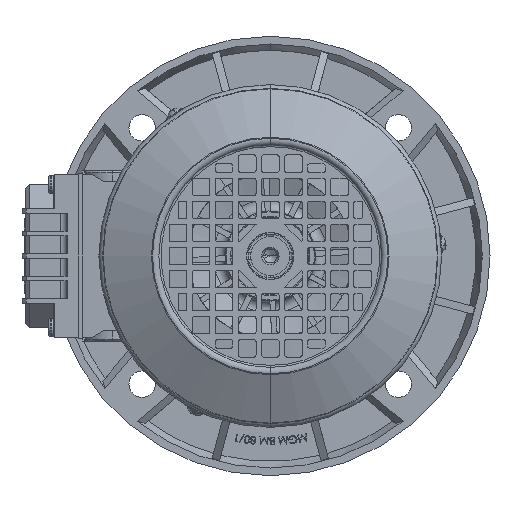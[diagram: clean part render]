
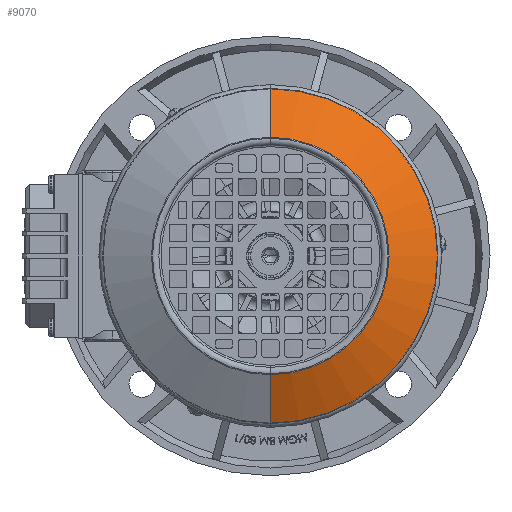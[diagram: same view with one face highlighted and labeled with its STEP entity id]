
A CAD part, left-side view. The second image highlights one B-rep face of the part: STEP entity #9070.
In plain terms, the highlighted conical face has half-angle 64 degrees and reference radius 76.315 mm.
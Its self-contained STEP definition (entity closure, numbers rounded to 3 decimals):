
#4637 = VERTEX_POINT ( 'NONE', #78165 ) ;
#5540 = DIRECTION ( 'NONE',  ( 0.899, 0.438, 0. ) ) ;
#9070 = ADVANCED_FACE ( 'NONE', ( #17745 ), #12963, .T. ) ;
#9739 = CARTESIAN_POINT ( 'NONE',  ( 0., 11.115, 0. ) ) ;
#11171 = LINE ( 'NONE', #65974, #88085 ) ;
#11244 = EDGE_CURVE ( 'NONE', #4637, #23043, #16233, .T. ) ;
#12963 = CONICAL_SURFACE ( 'NONE', #71584, 76.315, 1.117 ) ;
#14265 = LINE ( 'NONE', #97593, #52695 ) ;
#14941 = DIRECTION ( 'NONE',  ( -1., 0., 0. ) ) ;
#15118 = AXIS2_PLACEMENT_3D ( 'NONE', #9739, #63456, #17472 ) ;
#15198 = EDGE_CURVE ( 'NONE', #27436, #4637, #14265, .T. ) ;
#16233 = CIRCLE ( 'NONE', #15118, 76.315 ) ;
#17472 = DIRECTION ( 'NONE',  ( -1., 0., 0. ) ) ;
#17745 = FACE_OUTER_BOUND ( 'NONE', #59405, .T. ) ;
#20505 = DIRECTION ( 'NONE',  ( 0., 1., 0. ) ) ;
#22675 = DIRECTION ( 'NONE',  ( 0., 1., 0. ) ) ;
#23043 = VERTEX_POINT ( 'NONE', #92936 ) ;
#24541 = EDGE_CURVE ( 'NONE', #27436, #52170, #67005, .T. ) ;
#27436 = VERTEX_POINT ( 'NONE', #66647 ) ;
#28697 = AXIS2_PLACEMENT_3D ( 'NONE', #66490, #20505, #74250 ) ;
#32760 = ORIENTED_EDGE ( 'NONE', *, *, #71228, .T. ) ;
#32876 = CARTESIAN_POINT ( 'NONE',  ( -54.045, 0.253, 0. ) ) ;
#34847 = ORIENTED_EDGE ( 'NONE', *, *, #24541, .T. ) ;
#44552 = ORIENTED_EDGE ( 'NONE', *, *, #15198, .F. ) ;
#52170 = VERTEX_POINT ( 'NONE', #32876 ) ;
#52695 = VECTOR ( 'NONE', #5540, 1000. ) ;
#59405 = EDGE_LOOP ( 'NONE', ( #44552, #34847, #32760, #77533 ) ) ;
#63456 = DIRECTION ( 'NONE',  ( 0., 1., 0. ) ) ;
#65974 = CARTESIAN_POINT ( 'NONE',  ( -76.315, 11.115, 0. ) ) ;
#66490 = CARTESIAN_POINT ( 'NONE',  ( 0., 0.253, 0. ) ) ;
#66647 = CARTESIAN_POINT ( 'NONE',  ( 54.045, 0.253, 0. ) ) ;
#67005 = CIRCLE ( 'NONE', #28697, 54.045 ) ;
#68664 = CARTESIAN_POINT ( 'NONE',  ( 0., 11.115, 0. ) ) ;
#71228 = EDGE_CURVE ( 'NONE', #52170, #23043, #11171, .T. ) ;
#71584 = AXIS2_PLACEMENT_3D ( 'NONE', #68664, #22675, #14941 ) ;
#73715 = DIRECTION ( 'NONE',  ( -0.899, 0.438, 0. ) ) ;
#74250 = DIRECTION ( 'NONE',  ( -1., 0., 0. ) ) ;
#77533 = ORIENTED_EDGE ( 'NONE', *, *, #11244, .F. ) ;
#78165 = CARTESIAN_POINT ( 'NONE',  ( 76.315, 11.115, 0. ) ) ;
#88085 = VECTOR ( 'NONE', #73715, 1000. ) ;
#92936 = CARTESIAN_POINT ( 'NONE',  ( -76.315, 11.115, 0. ) ) ;
#97593 = CARTESIAN_POINT ( 'NONE',  ( 76.315, 11.115, 0. ) ) ;
